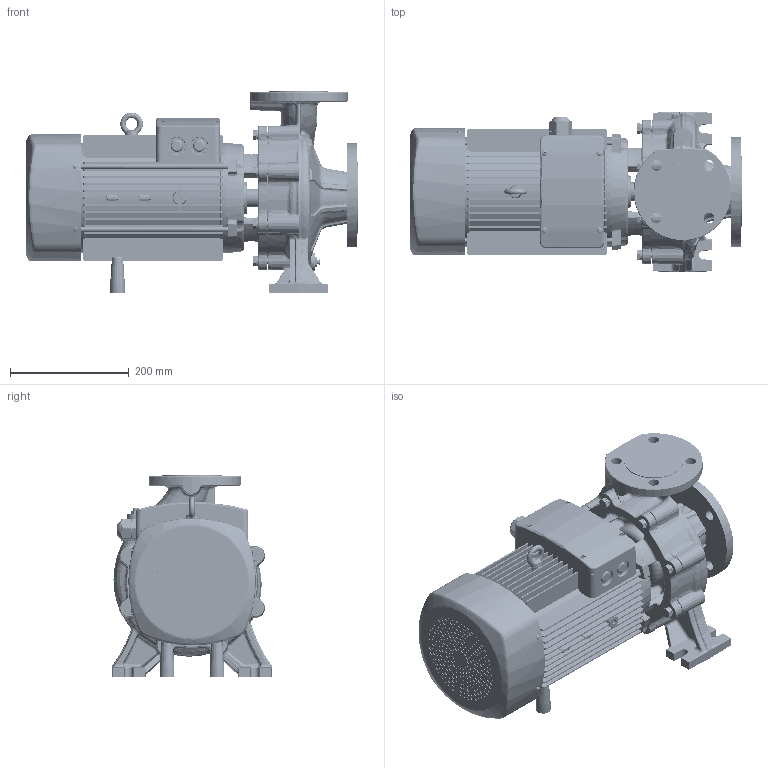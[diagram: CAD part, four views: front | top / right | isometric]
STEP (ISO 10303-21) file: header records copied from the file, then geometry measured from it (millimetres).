
FILE_DESCRIPTION (( 'STEP AP203' ), '1' );
FILE_NAME ('1.STEP', '2026-01-12T09:08:52', ( '微软用户' ), ( '微软中国' ), 'SwSTEP 2.0', 'SolidWorks 2020', '' );
FILE_SCHEMA (( 'CONFIG_CONTROL_DESIGN' ));
Length unit declared in the file: millimetre
Products named in the file (1): 1
Bounding box: 559.4 x 270.8 x 340.03 mm (x, y, z)
Volume: 18026850.9 mm3; surface area: 1182103.3 mm2
Topology: 5 solids, 5 shells, 4393 faces, 10832 edges, 6663 vertices
Faces by surface type: cylinder 1253, plane 1208, bspline 1096, cone 421, torus 254, sphere 161
Entity records: 221547 total; most frequent: CARTESIAN_POINT 145132, ORIENTED_EDGE 21442, EDGE_CURVE 10721, B_SPLINE_CURVE_WITH_KNOTS 10202, VERTEX_POINT 6661, DIRECTION 6596, EDGE_LOOP 4782, FACE_OUTER_BOUND 4393
